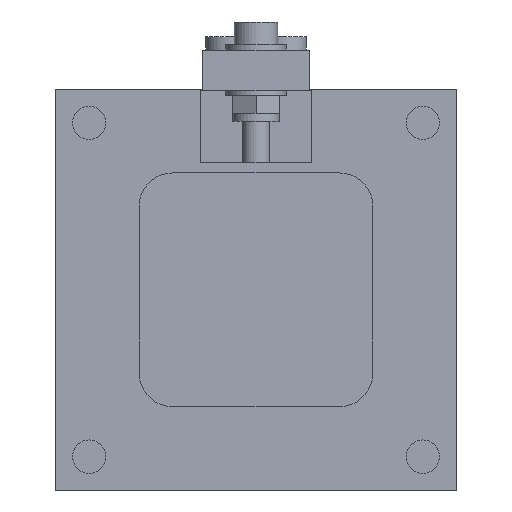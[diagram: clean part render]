
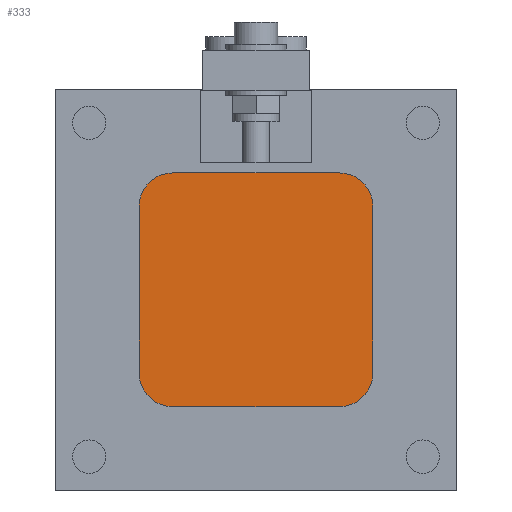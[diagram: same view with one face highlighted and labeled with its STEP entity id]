
A CAD part, front view. The second image highlights one B-rep face of the part: STEP entity #333.
In plain terms, the highlighted planar face has unit normal (0, -1, 0).
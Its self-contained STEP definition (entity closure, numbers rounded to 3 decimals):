
#31 = EDGE_CURVE ( 'NONE', #4112, #5705, #5376, .T. ) ;
#111 = CARTESIAN_POINT ( 'NONE',  ( 17.5, 0.2, -17.5 ) ) ;
#227 = EDGE_LOOP ( 'NONE', ( #2484, #3016, #308, #4898, #830, #2412, #1142, #3925 ) ) ;
#308 = ORIENTED_EDGE ( 'NONE', *, *, #4662, .T. ) ;
#333 = ADVANCED_FACE ( 'NONE', ( #2751 ), #3624, .T. ) ;
#389 = DIRECTION ( 'NONE',  ( 0., 0., 1. ) ) ;
#444 = EDGE_CURVE ( 'NONE', #4861, #5315, #4552, .T. ) ;
#689 = CARTESIAN_POINT ( 'NONE',  ( -12.5, 0.2, -42.5 ) ) ;
#739 = DIRECTION ( 'NONE',  ( 1., 0., 0. ) ) ;
#768 = CARTESIAN_POINT ( 'NONE',  ( -17.5, 0.2, -47.5 ) ) ;
#805 = EDGE_CURVE ( 'NONE', #4518, #4112, #5298, .T. ) ;
#830 = ORIENTED_EDGE ( 'NONE', *, *, #444, .T. ) ;
#831 = CARTESIAN_POINT ( 'NONE',  ( 12.5, 0.2, -47.5 ) ) ;
#1029 = CARTESIAN_POINT ( 'NONE',  ( 12.5, 0.2, -17.5 ) ) ;
#1041 = CARTESIAN_POINT ( 'NONE',  ( 17.5, 0.2, -42.5 ) ) ;
#1142 = ORIENTED_EDGE ( 'NONE', *, *, #2724, .T. ) ;
#1200 = DIRECTION ( 'NONE',  ( -1., 0., 0. ) ) ;
#1522 = DIRECTION ( 'NONE',  ( -1., 0., 0. ) ) ;
#1775 = AXIS2_PLACEMENT_3D ( 'NONE', #1029, #4395, #1522 ) ;
#2103 = VECTOR ( 'NONE', #3245, 1000. ) ;
#2264 = AXIS2_PLACEMENT_3D ( 'NONE', #3711, #3600, #3582 ) ;
#2372 = AXIS2_PLACEMENT_3D ( 'NONE', #689, #4078, #1200 ) ;
#2403 = EDGE_CURVE ( 'NONE', #5315, #4965, #3921, .T. ) ;
#2412 = ORIENTED_EDGE ( 'NONE', *, *, #2403, .T. ) ;
#2484 = ORIENTED_EDGE ( 'NONE', *, *, #805, .T. ) ;
#2585 = VECTOR ( 'NONE', #739, 1000. ) ;
#2670 = DIRECTION ( 'NONE',  ( -1., 0., 0. ) ) ;
#2701 = AXIS2_PLACEMENT_3D ( 'NONE', #5464, #5436, #5428 ) ;
#2724 = EDGE_CURVE ( 'NONE', #4965, #6124, #5925, .T. ) ;
#2735 = CARTESIAN_POINT ( 'NONE',  ( -17.5, 0.2, -12.5 ) ) ;
#2751 = FACE_OUTER_BOUND ( 'NONE', #227, .T. ) ;
#2797 = CARTESIAN_POINT ( 'NONE',  ( -17.5, 0.2, -42.5 ) ) ;
#2981 = CARTESIAN_POINT ( 'NONE',  ( -17.5, 0.2, -47.5 ) ) ;
#3016 = ORIENTED_EDGE ( 'NONE', *, *, #31, .T. ) ;
#3245 = DIRECTION ( 'NONE',  ( 0., 0., -1. ) ) ;
#3280 = CARTESIAN_POINT ( 'NONE',  ( 17.5, 0.2, -47.5 ) ) ;
#3290 = VECTOR ( 'NONE', #2670, 1000. ) ;
#3582 = DIRECTION ( 'NONE',  ( -1., 0., 0. ) ) ;
#3600 = DIRECTION ( 'NONE',  ( 0., -1., 0. ) ) ;
#3624 = PLANE ( 'NONE',  #2264 ) ;
#3710 = EDGE_CURVE ( 'NONE', #4281, #4861, #5618, .T. ) ;
#3711 = CARTESIAN_POINT ( 'NONE',  ( 17.5, 0.2, -47.5 ) ) ;
#3921 = CIRCLE ( 'NONE', #4230, 5. ) ;
#3925 = ORIENTED_EDGE ( 'NONE', *, *, #4436, .T. ) ;
#4078 = DIRECTION ( 'NONE',  ( 0., -1., 0. ) ) ;
#4112 = VERTEX_POINT ( 'NONE', #831 ) ;
#4125 = CARTESIAN_POINT ( 'NONE',  ( 12.5, 0.2, -12.5 ) ) ;
#4230 = AXIS2_PLACEMENT_3D ( 'NONE', #4373, #4377, #4391 ) ;
#4281 = VERTEX_POINT ( 'NONE', #111 ) ;
#4373 = CARTESIAN_POINT ( 'NONE',  ( -12.5, 0.2, -17.5 ) ) ;
#4377 = DIRECTION ( 'NONE',  ( 0., -1., 0. ) ) ;
#4391 = DIRECTION ( 'NONE',  ( -1., 0., 0. ) ) ;
#4395 = DIRECTION ( 'NONE',  ( 0., -1., 0. ) ) ;
#4436 = EDGE_CURVE ( 'NONE', #6124, #4518, #5828, .T. ) ;
#4518 = VERTEX_POINT ( 'NONE', #6025 ) ;
#4552 = LINE ( 'NONE', #2735, #3290 ) ;
#4662 = EDGE_CURVE ( 'NONE', #5705, #4281, #5836, .T. ) ;
#4663 = CARTESIAN_POINT ( 'NONE',  ( -17.5, 0.2, -17.5 ) ) ;
#4861 = VERTEX_POINT ( 'NONE', #4125 ) ;
#4898 = ORIENTED_EDGE ( 'NONE', *, *, #3710, .T. ) ;
#4965 = VERTEX_POINT ( 'NONE', #4663 ) ;
#5298 = LINE ( 'NONE', #768, #2585 ) ;
#5315 = VERTEX_POINT ( 'NONE', #5991 ) ;
#5376 = CIRCLE ( 'NONE', #2701, 5. ) ;
#5428 = DIRECTION ( 'NONE',  ( -1., 0., 0. ) ) ;
#5436 = DIRECTION ( 'NONE',  ( 0., -1., 0. ) ) ;
#5464 = CARTESIAN_POINT ( 'NONE',  ( 12.5, 0.2, -42.5 ) ) ;
#5618 = CIRCLE ( 'NONE', #1775, 5. ) ;
#5705 = VERTEX_POINT ( 'NONE', #1041 ) ;
#5828 = CIRCLE ( 'NONE', #2372, 5. ) ;
#5836 = LINE ( 'NONE', #3280, #6129 ) ;
#5925 = LINE ( 'NONE', #2981, #2103 ) ;
#5991 = CARTESIAN_POINT ( 'NONE',  ( -12.5, 0.2, -12.5 ) ) ;
#6025 = CARTESIAN_POINT ( 'NONE',  ( -12.5, 0.2, -47.5 ) ) ;
#6124 = VERTEX_POINT ( 'NONE', #2797 ) ;
#6129 = VECTOR ( 'NONE', #389, 1000. ) ;
